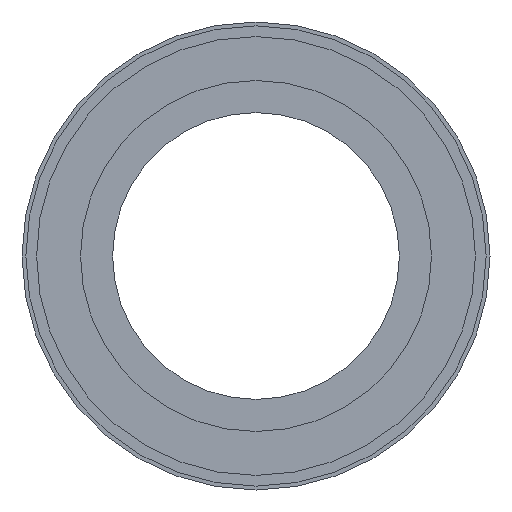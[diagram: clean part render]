
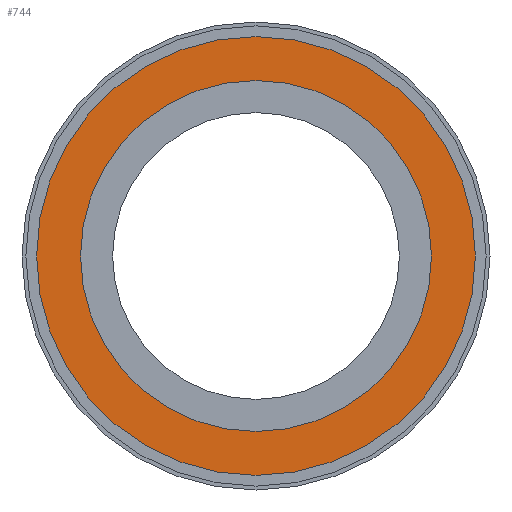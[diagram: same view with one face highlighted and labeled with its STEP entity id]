
A CAD part, front view. The second image highlights one B-rep face of the part: STEP entity #744.
In plain terms, the highlighted planar face has unit normal (0, -1, 0).
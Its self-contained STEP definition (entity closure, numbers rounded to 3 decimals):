
#28 = DIRECTION ( 'NONE',  ( 0., 0., -1. ) ) ;
#37 = CIRCLE ( 'NONE', #1123, 76.55 ) ;
#43 = PLANE ( 'NONE',  #833 ) ;
#86 = CARTESIAN_POINT ( 'NONE',  ( 0., 38., 112.5 ) ) ;
#103 = AXIS2_PLACEMENT_3D ( 'NONE', #671, #1084, #522 ) ;
#121 = CARTESIAN_POINT ( 'NONE',  ( 0., 38., -112.5 ) ) ;
#138 = DIRECTION ( 'NONE',  ( 0., -1., 0. ) ) ;
#199 = ORIENTED_EDGE ( 'NONE', *, *, #694, .T. ) ;
#234 = VERTEX_POINT ( 'NONE', #443 ) ;
#239 = DIRECTION ( 'NONE',  ( 0., -1., 0. ) ) ;
#290 = EDGE_LOOP ( 'NONE', ( #199, #312 ) ) ;
#307 = CIRCLE ( 'NONE', #1122, 76.55 ) ;
#312 = ORIENTED_EDGE ( 'NONE', *, *, #547, .T. ) ;
#322 = VERTEX_POINT ( 'NONE', #688 ) ;
#345 = EDGE_CURVE ( 'NONE', #624, #234, #37, .T. ) ;
#349 = FACE_OUTER_BOUND ( 'NONE', #290, .T. ) ;
#388 = CARTESIAN_POINT ( 'NONE',  ( 0., 38., 0. ) ) ;
#391 = DIRECTION ( 'NONE',  ( 0., -1., 0. ) ) ;
#443 = CARTESIAN_POINT ( 'NONE',  ( 0., 38., -76.55 ) ) ;
#465 = AXIS2_PLACEMENT_3D ( 'NONE', #1251, #138, #920 ) ;
#522 = DIRECTION ( 'NONE',  ( 0., 0., -1. ) ) ;
#529 = VERTEX_POINT ( 'NONE', #86 ) ;
#547 = EDGE_CURVE ( 'NONE', #529, #322, #562, .T. ) ;
#562 = CIRCLE ( 'NONE', #103, 112.5 ) ;
#607 = CIRCLE ( 'NONE', #465, 112.5 ) ;
#624 = VERTEX_POINT ( 'NONE', #646 ) ;
#646 = CARTESIAN_POINT ( 'NONE',  ( 0., 38., 76.55 ) ) ;
#671 = CARTESIAN_POINT ( 'NONE',  ( 0., 38., 0. ) ) ;
#688 = CARTESIAN_POINT ( 'NONE',  ( 0., 38., -112.5 ) ) ;
#694 = EDGE_CURVE ( 'NONE', #322, #529, #607, .T. ) ;
#715 = ORIENTED_EDGE ( 'NONE', *, *, #1345, .F. ) ;
#744 = ADVANCED_FACE ( 'NONE', ( #349, #1040 ), #43, .T. ) ;
#785 = DIRECTION ( 'NONE',  ( 0., -1., 0. ) ) ;
#833 = AXIS2_PLACEMENT_3D ( 'NONE', #121, #785, #28 ) ;
#919 = EDGE_LOOP ( 'NONE', ( #715, #1348 ) ) ;
#920 = DIRECTION ( 'NONE',  ( 0., 0., -1. ) ) ;
#999 = CARTESIAN_POINT ( 'NONE',  ( 0., 38., 0. ) ) ;
#1040 = FACE_BOUND ( 'NONE', #919, .T. ) ;
#1084 = DIRECTION ( 'NONE',  ( 0., -1., 0. ) ) ;
#1101 = DIRECTION ( 'NONE',  ( 0., 0., -1. ) ) ;
#1122 = AXIS2_PLACEMENT_3D ( 'NONE', #388, #391, #1175 ) ;
#1123 = AXIS2_PLACEMENT_3D ( 'NONE', #999, #239, #1101 ) ;
#1175 = DIRECTION ( 'NONE',  ( 0., 0., -1. ) ) ;
#1251 = CARTESIAN_POINT ( 'NONE',  ( 0., 38., 0. ) ) ;
#1345 = EDGE_CURVE ( 'NONE', #234, #624, #307, .T. ) ;
#1348 = ORIENTED_EDGE ( 'NONE', *, *, #345, .F. ) ;
